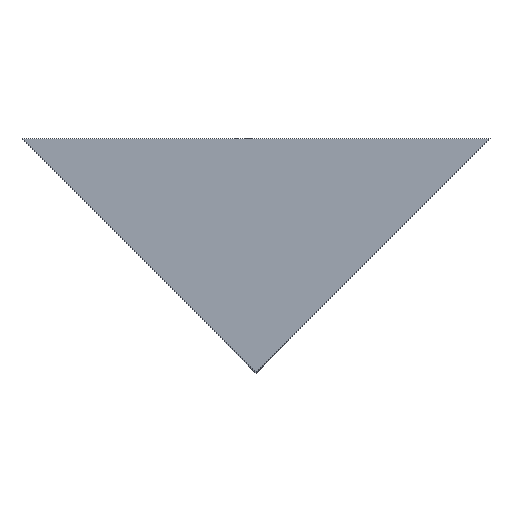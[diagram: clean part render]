
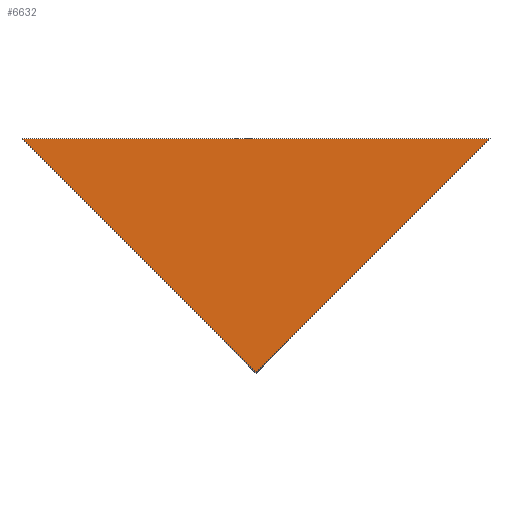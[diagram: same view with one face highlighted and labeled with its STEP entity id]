
A CAD part, top view. The second image highlights one B-rep face of the part: STEP entity #6632.
In plain terms, the highlighted planar face has unit normal (0, 0, 1).
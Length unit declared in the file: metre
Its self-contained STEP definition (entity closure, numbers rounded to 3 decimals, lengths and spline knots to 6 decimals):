
#359=ORIENTED_EDGE('',*,*,#2234,.T.);
#360=ORIENTED_EDGE('',*,*,#2244,.T.);
#361=ORIENTED_EDGE('',*,*,#2245,.F.);
#2234=EDGE_CURVE('',#3182,#3181,#3814,.T.);
#2244=EDGE_CURVE('',#3181,#3187,#3824,.T.);
#2245=EDGE_CURVE('',#3182,#3187,#3825,.T.);
#3181=VERTEX_POINT('',#9723);
#3182=VERTEX_POINT('',#9725);
#3187=VERTEX_POINT('',#9743);
#3814=LINE('',#9724,#4762);
#3824=LINE('',#9744,#4772);
#3825=LINE('',#9746,#4773);
#4762=VECTOR('',#7711,1.);
#4772=VECTOR('',#7729,1.);
#4773=VECTOR('',#7732,1.);
#5454=EDGE_LOOP('',(#359,#360,#361));
#5884=FACE_BOUND('',#5454,.T.);
#6258=PLANE('',#7019);
#6632=ADVANCED_FACE('',(#5884),#6258,.T.);
#7019=AXIS2_PLACEMENT_3D('',#9745,#7730,#7731);
#7711=DIRECTION('',(0.707,0.707,0.));
#7729=DIRECTION('',(-1.,0.,0.));
#7730=DIRECTION('',(0.,0.,1.));
#7731=DIRECTION('',(1.,0.,0.));
#7732=DIRECTION('',(-0.707,0.707,0.));
#9723=CARTESIAN_POINT('',(0.05,0.05,0.051));
#9724=CARTESIAN_POINT('',(0.028398,0.028398,0.051));
#9725=CARTESIAN_POINT('',(0.,0.,0.051));
#9743=CARTESIAN_POINT('',(-0.05,0.05,0.051));
#9744=CARTESIAN_POINT('',(0.025,0.05,0.051));
#9745=CARTESIAN_POINT('',(0.,0.,0.051));
#9746=CARTESIAN_POINT('',(-0.028398,0.028398,0.051));
